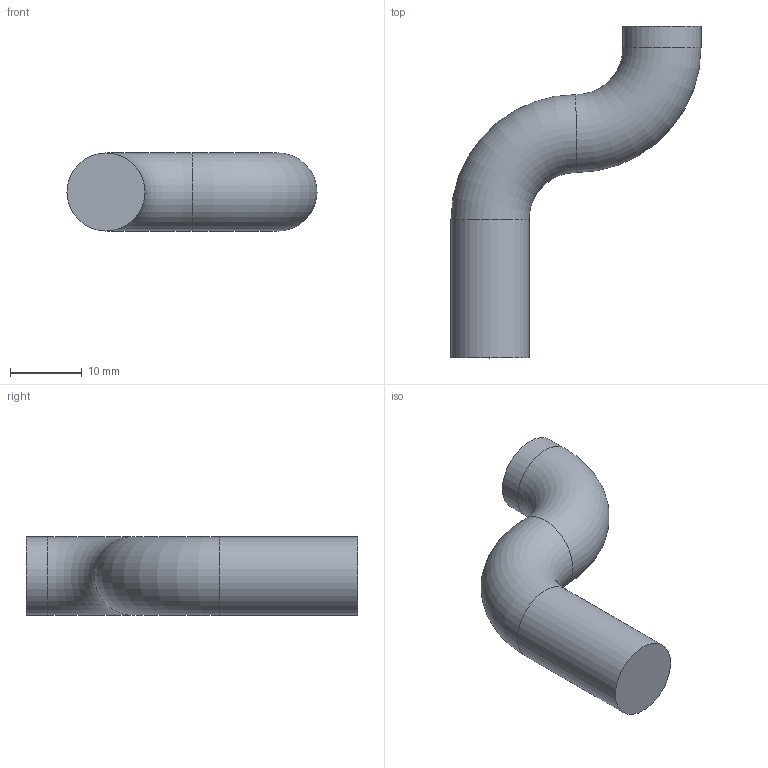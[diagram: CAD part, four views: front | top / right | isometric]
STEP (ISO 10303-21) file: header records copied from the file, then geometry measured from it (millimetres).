
FILE_DESCRIPTION(('Open CASCADE Model'),'2;1');
FILE_NAME('Open CASCADE Shape Model','2026-11-14T16:02:38',('Author'),( 'Open CASCADE'),'Open CASCADE STEP processor 7.9','Open CASCADE 7.9' ,'Unknown');
FILE_SCHEMA(('AUTOMOTIVE_DESIGN { 1 0 10303 214 1 1 1 1 }'));
Length unit declared in the file: millimetre
Products named in the file (1): Open CASCADE STEP translator 7.9 242
Bounding box: 34.89 x 46.3 x 10.89 mm (x, y, z)
Volume: 5588.4 mm3; surface area: 2239 mm2
Topology: 1 solids, 1 shells, 6 faces, 9 edges, 5 vertices
Faces by surface type: cylinder 2, torus 2, plane 2
Full cylindrical faces by diameter (mm): 10.89 x2
Entity records: 256 total; most frequent: CARTESIAN_POINT 46, DIRECTION 41, ORIENTED_EDGE 18, PCURVE 18, DEFINITIONAL_REPRESENTATION 18, AXIS2_PLACEMENT_3D 14, LINE 11, VECTOR 11
